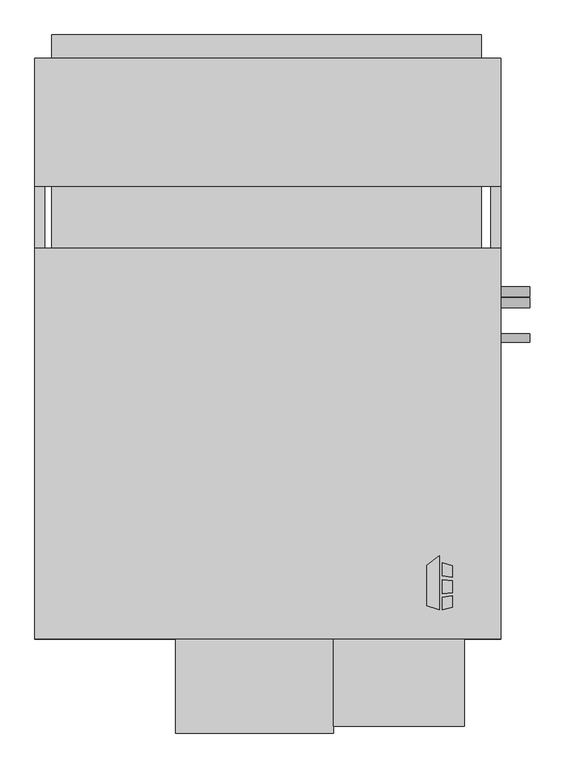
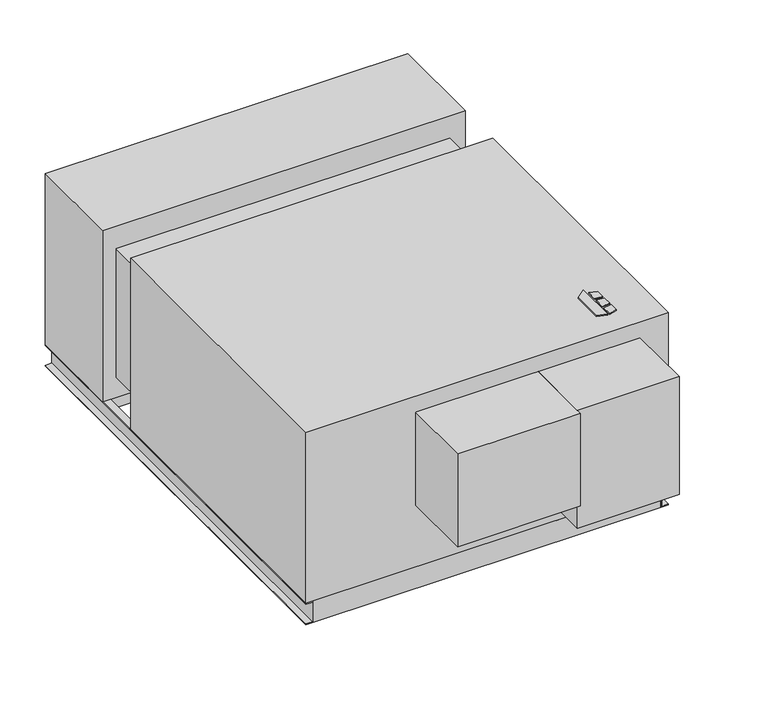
"""IFC4 building model written with IfcOpenShell, lengths in millimetres: proxy geometry, Horizontal_Direct_Drive_Blower_Coil_Unit_-_HDY_-_IEC_-_2-Pipe_Cool-EHeat_NFilterR_W-MixingBox_RH_2022 : Size 20 - 460v/60Hz/3Ph - 8 Row 19.9kW LH."""

from ifc_helpers import new_model, si_unit, point, frame, frame_2d, origin, origin_with_axes, place, context, project, spatial, polyline, circle_curve, trimmed, segment, composite_curve, outline, extrude, source, transform, mapped, element, save


def mechanical_equipment_b7b7ae08(model_context):
    return source(origin(), model_context, "Body", "SweptSolid", [
        extrude(outline(polyline([(-39.9980239, -337.5078476), (-7.4397272, -312.0705184), (-7.4397272, -454.025), (-39.9980239, -443.8054201), (-39.9980239, -337.5078476)])), origin_with_axes(), (0.0, 0.0, 1.0), 3.175),
        extrude(outline(polyline([(-0.6813942, -365.379852), (-0.6813942, -330.8999379), (25.4, -339.0865115), (25.4, -368.5822446), (-0.6813942, -365.379852)])), origin_with_axes(), (0.0, 0.0, 1.0), 3.175),
        extrude(outline(polyline([(25.4, -447.0365115), (-0.6813942, -454.025), (-0.6813942, -420.8036996), (25.4, -417.2618564), (25.4, -447.0365115)])), origin_with_axes(), (0.0, 0.0, 1.0), 3.175),
        extrude(outline(polyline([(25.4, -377.6638277), (25.4, -408.913983), (-0.6813942, -411.655248), (-0.6813942, -375.7975378), (25.4, -377.6638277)])), origin_with_axes(), (0.0, 0.0, 1.0), 3.175),
        extrude(outline(polyline([(101.6, 887.095), (101.6, 683.895), (-1022.35, 683.895), (-1022.35, 887.095), (101.6, 887.095)])), frame((0.0, 0.0, -670.56), z_axis=(0.0, 0.0, 1.0), x_axis=(1.0, 0.0, 0.0)), (0.0, 0.0, 1.0), 60.96),
        extrude(outline(polyline([(-1022.35, 1049.655), (101.6, 1049.655), (101.6, 988.695), (-1022.35, 988.695), (-1022.35, 1049.655)])), frame((0.0, 0.0, -279.4), z_axis=(0.0, 0.0, 1.0), x_axis=(1.0, 0.0, 0.0)), (0.0, 0.0, 1.0), 203.2),
        extrude(outline(polyline([(152.4, 988.695), (152.4, 654.05), (-1066.8, 654.05), (-1066.8, 988.695), (152.4, 988.695)])), frame((0.0, 0.0, -609.6), z_axis=(0.0, 0.0, 1.0), x_axis=(1.0, 0.0, 0.0)), (0.0, 0.0, 1.0), 609.6),
        extrude(outline(polyline([(127.0, -504.825), (127.0, -530.225), (-1041.4, -530.225), (-1041.4, -504.825), (127.0, -504.825)])), frame((0.0, 0.0, -685.8), z_axis=(0.0, 0.0, 1.0), x_axis=(1.0, 0.0, 0.0)), (0.0, 0.0, 1.0), 76.2),
        extrude(outline(polyline([(127.0, 988.695), (127.0, 963.295), (-1041.4, 963.295), (-1041.4, 988.695), (127.0, 988.695)])), frame((0.0, 0.0, -685.8), z_axis=(0.0, 0.0, 1.0), x_axis=(1.0, 0.0, 0.0)), (0.0, 0.0, 1.0), 76.2),
        extrude(outline(polyline([(-609.6, -1041.4), (-609.6, -1066.8), (-612.775, -1066.8), (-612.775, -1044.575), (-682.625, -1044.575), (-682.625, -1066.8), (-685.8, -1066.8), (-685.8, -1041.4), (-609.6, -1041.4)])), frame((0.0, -530.225, 0.0), z_axis=(0.0, 1.0, 0.0), x_axis=(0.0, 0.0, 1.0)), (0.0, 0.0, 1.0), 1518.92),
        extrude(outline(polyline([(-609.6, 127.0), (-685.8, 127.0), (-685.8, 152.4), (-682.625, 152.4), (-682.625, 130.175), (-612.775, 130.175), (-612.775, 152.4), (-609.6, 152.4), (-609.6, 127.0)])), frame((0.0, -530.225, 0.0), z_axis=(0.0, 1.0, 0.0), x_axis=(0.0, 0.0, 1.0)), (0.0, 0.0, 1.0), 1518.92),
        extrude(outline(composite_curve([segment(trimmed(circle_curve(frame_2d((377.825, -177.8)), 12.7), [point((390.525, -177.8))], [point((365.125, -177.8))], False, "CARTESIAN"), True, "CONTINUOUS"), segment(trimmed(circle_curve(frame_2d((377.825, -177.8)), 12.7), [point((365.125, -177.8))], [point((390.525, -177.8))], False, "CARTESIAN"), True, "CONTINUOUS")], self_intersect=False)), frame((152.4, 0.0, 0.0), z_axis=(1.0, 0.0, 0.0), x_axis=(0.0, 1.0, 0.0)), (0.0, 0.0, 1.0), 76.2),
        extrude(outline(composite_curve([segment(trimmed(circle_curve(frame_2d((348.9715397, -482.6)), 12.7), [point((361.6715397, -482.6))], [point((336.2715397, -482.6))], False, "CARTESIAN"), True, "CONTINUOUS"), segment(trimmed(circle_curve(frame_2d((348.9715397, -482.6)), 12.7), [point((336.2715397, -482.6))], [point((361.6715397, -482.6))], False, "CARTESIAN"), True, "CONTINUOUS")], self_intersect=False)), frame((152.4, 0.0, 0.0), z_axis=(1.0, 0.0, 0.0), x_axis=(0.0, 1.0, 0.0)), (0.0, 0.0, 1.0), 76.2),
        extrude(outline(composite_curve([segment(trimmed(circle_curve(frame_2d((257.175, -565.15)), 11.1125), [point((268.2875, -565.15))], [point((246.0625, -565.15))], False, "CARTESIAN"), True, "CONTINUOUS"), segment(trimmed(circle_curve(frame_2d((257.175, -565.15)), 11.1125), [point((246.0625, -565.15))], [point((268.2875, -565.15))], False, "CARTESIAN"), True, "CONTINUOUS")], self_intersect=False)), frame((152.4, 0.0, 0.0), z_axis=(1.0, 0.0, 0.0), x_axis=(0.0, 1.0, 0.0)), (0.0, 0.0, 1.0), 76.2),
        extrude(outline(polyline([(152.4, 492.125), (152.4, -530.225), (-1066.8, -530.225), (-1066.8, 492.125), (152.4, 492.125)])), frame((0.0, 0.0, -609.6), z_axis=(0.0, 0.0, 1.0), x_axis=(1.0, 0.0, 0.0)), (0.0, 0.0, 1.0), 609.6),
        extrude(outline(polyline([(57.15, -758.825), (-285.75, -758.825), (-285.75, -530.225), (57.15, -530.225), (57.15, -758.825)])), frame((0.0, 0.0, -476.25), z_axis=(0.0, 0.0, 1.0), x_axis=(1.0, 0.0, 0.0)), (0.0, 0.0, 1.0), 419.1),
        extrude(outline(polyline([(-1022.35, 654.05), (101.6, 654.05), (101.6, 492.125), (-1022.35, 492.125), (-1022.35, 654.05)])), frame((0.0, 0.0, -536.575), z_axis=(0.0, 0.0, 1.0), x_axis=(1.0, 0.0, 0.0)), (0.0, 0.0, 1.0), 457.2),
        extrude(outline(polyline([(-285.75, -776.2875), (-698.5, -776.2875), (-698.5, -530.225), (-285.75, -530.225), (-285.75, -776.2875)])), frame((0.0, 0.0, -387.35), z_axis=(0.0, 0.0, 1.0), x_axis=(1.0, 0.0, 0.0)), (0.0, 0.0, 1.0), 330.2),
    ])


if __name__ == "__main__":
    model = new_model("IFC4")
    model_context = context("Model", 3, world=origin())
    ifc_project = project(units=[si_unit("LENGTHUNIT", "METRE", prefix="MILLI")], contexts=[model_context])
    site = spatial("IfcSite", under=ifc_project)
    building = spatial("IfcBuilding", under=site)
    placement = place(None, origin())
    mechanical_equipment_shape = mechanical_equipment_b7b7ae08(model_context)
    element("IfcBuildingElementProxy", 1, Name="Horizontal_Direct_Drive_Blower_Coil_Unit_-_HDY_-_IEC_-_2-Pipe_Cool-EHeat_NFilterR_W-MixingBox_RH_2022 : Size 20 - 460v/60Hz/3Ph - 8 Row 19.9kW LH", ObjectType="Horizontal_Direct_Drive_Blower_Coil_Unit_-_HDY_-_IEC_-_2-Pipe_Cool-EHeat_NFilterR_W-MixingBox_RH_2022 : Size 20 - 460v/60Hz/3Ph - 8 Row 19.9kW LH", at=placement, inside=building, context=model_context, shape_type="MappedRepresentation", body=[
        mapped(mechanical_equipment_shape, transform((0.0, 0.0, 0.0), x_axis=(1.0, 0.0, 0.0), y_axis=(0.0, 1.0, 0.0), z_axis=(0.0, 0.0, 1.0))),
    ])
    save(model, "model.ifc")
